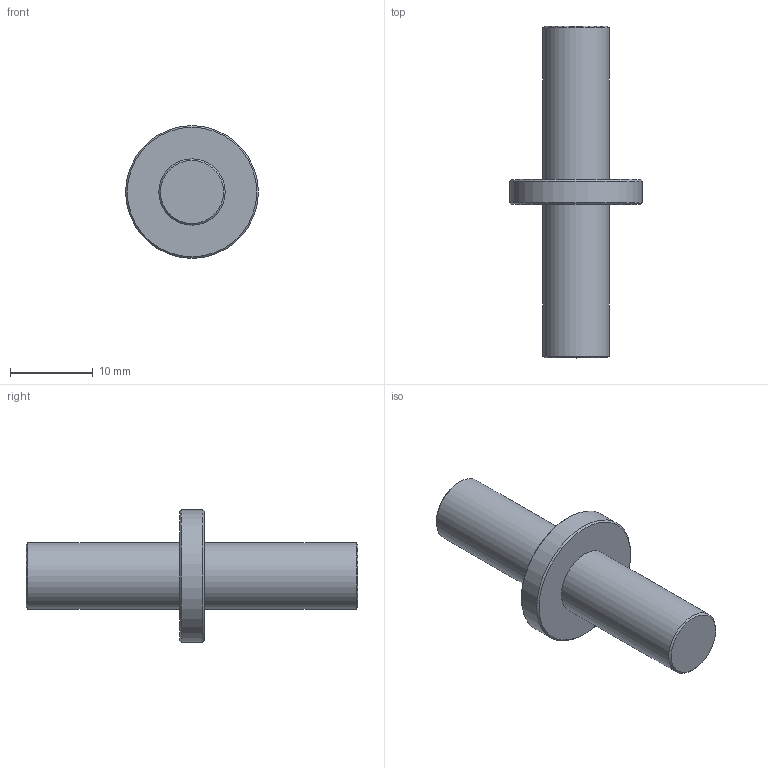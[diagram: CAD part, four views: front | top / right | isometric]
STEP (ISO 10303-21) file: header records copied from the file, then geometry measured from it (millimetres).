
FILE_DESCRIPTION (( 'STEP AP214' ), '1' );
FILE_NAME ('N30185.step', '2024-12-03T16:27:15', ( '' ), ( '' ), 'SwSTEP 2.0', 'SolidWorks 2023', '' );
FILE_SCHEMA (( 'AUTOMOTIVE_DESIGN' ));
Length unit declared in the file: millimetre
Products named in the file (1): N30185
Bounding box: 16 x 40 x 16 mm (x, y, z)
Volume: 2460 mm3; surface area: 1465 mm2
Topology: 1 solids, 1 shells, 11 faces, 19 edges, 12 vertices
Faces by surface type: cone 4, plane 4, cylinder 3
Full cylindrical faces by diameter (mm): 8 x2, 16 x1
Entity records: 237 total; most frequent: DIRECTION 44, CARTESIAN_POINT 32, AXIS2_PLACEMENT_3D 22, ORIENTED_EDGE 20, EDGE_LOOP 20, FACE_OUTER_BOUND 14, ADVANCED_FACE 11, EDGE_CURVE 10
